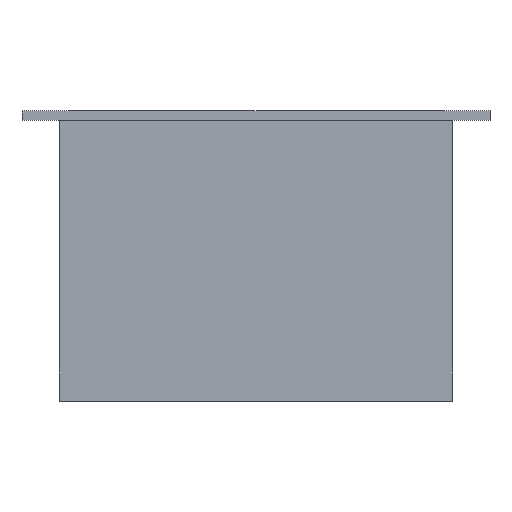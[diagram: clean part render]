
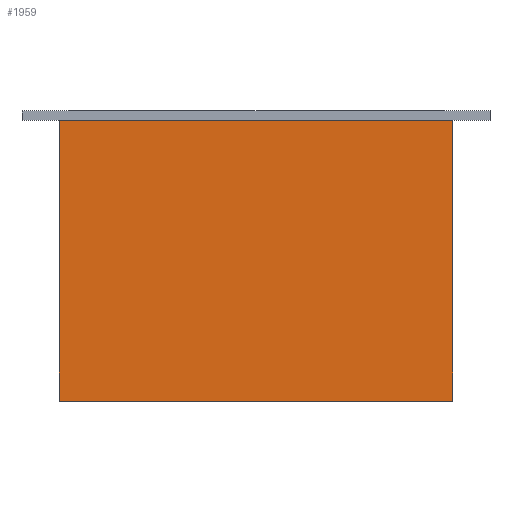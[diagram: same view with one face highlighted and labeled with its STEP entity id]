
A CAD part, front view. The second image highlights one B-rep face of the part: STEP entity #1959.
In plain terms, the highlighted planar face has unit normal (0, -1, 0).
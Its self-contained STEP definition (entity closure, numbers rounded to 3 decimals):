
#12 = EDGE_LOOP ( 'NONE', ( #258, #126, #288, #144 ) ) ;
#126 = ORIENTED_EDGE ( 'NONE', *, *, #1746, .F. ) ;
#144 = ORIENTED_EDGE ( 'NONE', *, *, #1805, .T. ) ;
#258 = ORIENTED_EDGE ( 'NONE', *, *, #1809, .F. ) ;
#288 = ORIENTED_EDGE ( 'NONE', *, *, #1882, .T. ) ;
#398 = LINE ( 'NONE', #693, #674 ) ;
#552 = VECTOR ( 'NONE', #1578, 1000. ) ;
#602 = LINE ( 'NONE', #698, #655 ) ;
#615 = VECTOR ( 'NONE', #759, 1000. ) ;
#631 = LINE ( 'NONE', #760, #615 ) ;
#655 = VECTOR ( 'NONE', #697, 1000. ) ;
#674 = VECTOR ( 'NONE', #694, 1000. ) ;
#678 = LINE ( 'NONE', #1569, #552 ) ;
#693 = CARTESIAN_POINT ( 'NONE',  ( -42., 8., 0. ) ) ;
#694 = DIRECTION ( 'NONE',  ( -1., 0., 0. ) ) ;
#697 = DIRECTION ( 'NONE',  ( 0., 0., -1. ) ) ;
#698 = CARTESIAN_POINT ( 'NONE',  ( -42., 8., 60. ) ) ;
#759 = DIRECTION ( 'NONE',  ( -1., 0., 0. ) ) ;
#760 = CARTESIAN_POINT ( 'NONE',  ( -42., 8., 60. ) ) ;
#1042 = DIRECTION ( 'NONE',  ( 1., 0., 0. ) ) ;
#1043 = DIRECTION ( 'NONE',  ( 0., -1., 0. ) ) ;
#1055 = CARTESIAN_POINT ( 'NONE',  ( -42., 8., 60. ) ) ;
#1058 = PLANE ( 'NONE',  #1670 ) ;
#1094 = FACE_OUTER_BOUND ( 'NONE', #12, .T. ) ;
#1212 = CARTESIAN_POINT ( 'NONE',  ( 42., 8., 60. ) ) ;
#1259 = CARTESIAN_POINT ( 'NONE',  ( -42., 8., 0. ) ) ;
#1263 = CARTESIAN_POINT ( 'NONE',  ( 42., 8., 0. ) ) ;
#1328 = CARTESIAN_POINT ( 'NONE',  ( -42., 8., 60. ) ) ;
#1343 = VERTEX_POINT ( 'NONE', #1328 ) ;
#1421 = VERTEX_POINT ( 'NONE', #1212 ) ;
#1429 = VERTEX_POINT ( 'NONE', #1263 ) ;
#1440 = VERTEX_POINT ( 'NONE', #1259 ) ;
#1569 = CARTESIAN_POINT ( 'NONE',  ( 42., 8., 60. ) ) ;
#1578 = DIRECTION ( 'NONE',  ( 0., 0., -1. ) ) ;
#1670 = AXIS2_PLACEMENT_3D ( 'NONE', #1055, #1043, #1042 ) ;
#1746 = EDGE_CURVE ( 'NONE', #1421, #1429, #678, .T. ) ;
#1805 = EDGE_CURVE ( 'NONE', #1343, #1440, #602, .T. ) ;
#1809 = EDGE_CURVE ( 'NONE', #1429, #1440, #398, .T. ) ;
#1882 = EDGE_CURVE ( 'NONE', #1421, #1343, #631, .T. ) ;
#1959 = ADVANCED_FACE ( 'NONE', ( #1094 ), #1058, .T. ) ;
